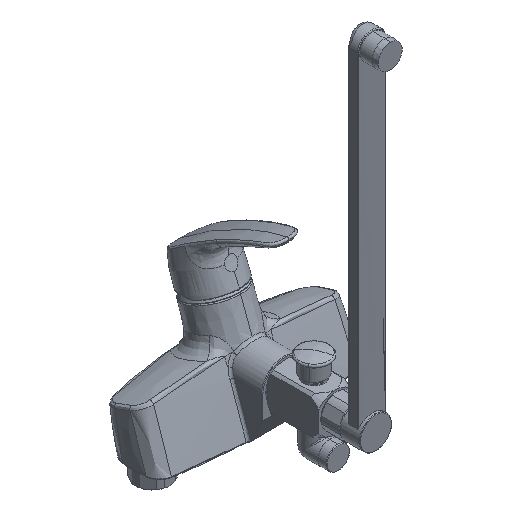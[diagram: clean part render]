
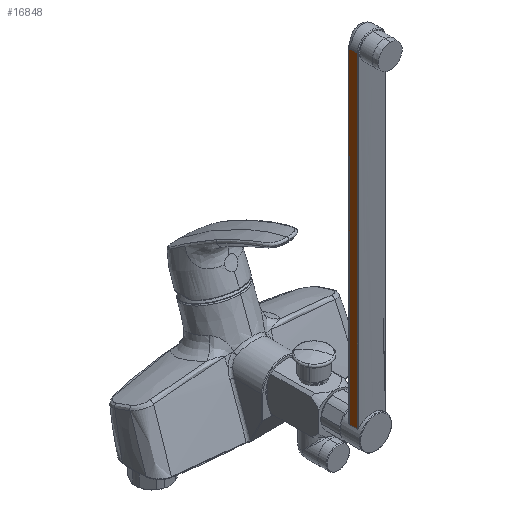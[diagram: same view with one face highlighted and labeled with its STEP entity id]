
A CAD part, isometric view. The second image highlights one B-rep face of the part: STEP entity #16848.
In plain terms, the highlighted planar face has unit normal (-1, 0, -0.001).
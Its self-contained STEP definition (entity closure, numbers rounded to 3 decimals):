
#888 = DIRECTION ( 'NONE',  ( 0.001, 0., -1. ) ) ;
#1114 = CARTESIAN_POINT ( 'NONE',  ( -12.799, -122.838, 67.031 ) ) ;
#1809 = VERTEX_POINT ( 'NONE', #1114 ) ;
#2680 = CARTESIAN_POINT ( 'NONE',  ( -13.043, -115.388, 373.444 ) ) ;
#3126 = ORIENTED_EDGE ( 'NONE', *, *, #22397, .F. ) ;
#3340 = CARTESIAN_POINT ( 'NONE',  ( -13.043, -114.969, 373.444 ) ) ;
#3611 = CARTESIAN_POINT ( 'NONE',  ( -12.799, -95.766, 67.031 ) ) ;
#5107 = DIRECTION ( 'NONE',  ( -1., 0., -0.001 ) ) ;
#5769 = LINE ( 'NONE', #17042, #10343 ) ;
#5962 = CARTESIAN_POINT ( 'NONE',  ( -13.033, -122.838, 360.794 ) ) ;
#6670 = FACE_OUTER_BOUND ( 'NONE', #17563, .T. ) ;
#7024 = VECTOR ( 'NONE', #13985, 1000. ) ;
#8817 = VERTEX_POINT ( 'NONE', #5962 ) ;
#9725 = EDGE_CURVE ( 'NONE', #1809, #13764, #12160, .T. ) ;
#10067 = AXIS2_PLACEMENT_3D ( 'NONE', #3340, #5107, #17192 ) ;
#10137 = DIRECTION ( 'NONE',  ( 0., -1., 0. ) ) ;
#10179 = LINE ( 'NONE', #2680, #18298 ) ;
#10343 = VECTOR ( 'NONE', #10137, 1000. ) ;
#10965 = ORIENTED_EDGE ( 'NONE', *, *, #15457, .T. ) ;
#11962 = DIRECTION ( 'NONE',  ( -0.001, 0., 1. ) ) ;
#12160 = LINE ( 'NONE', #3611, #7024 ) ;
#12544 = ORIENTED_EDGE ( 'NONE', *, *, #9725, .F. ) ;
#12658 = VERTEX_POINT ( 'NONE', #13117 ) ;
#13117 = CARTESIAN_POINT ( 'NONE',  ( -13.033, -115.388, 360.794 ) ) ;
#13727 = PLANE ( 'NONE',  #10067 ) ;
#13764 = VERTEX_POINT ( 'NONE', #18772 ) ;
#13985 = DIRECTION ( 'NONE',  ( 0., 1., 0. ) ) ;
#15457 = EDGE_CURVE ( 'NONE', #12658, #13764, #10179, .T. ) ;
#16340 = VECTOR ( 'NONE', #11962, 1000. ) ;
#16848 = ADVANCED_FACE ( 'NONE', ( #6670 ), #13727, .T. ) ;
#17042 = CARTESIAN_POINT ( 'NONE',  ( -13.033, 43.934, 360.794 ) ) ;
#17192 = DIRECTION ( 'NONE',  ( 0., 1., 0. ) ) ;
#17563 = EDGE_LOOP ( 'NONE', ( #12544, #18269, #3126, #10965 ) ) ;
#18269 = ORIENTED_EDGE ( 'NONE', *, *, #19771, .T. ) ;
#18298 = VECTOR ( 'NONE', #888, 1000. ) ;
#18772 = CARTESIAN_POINT ( 'NONE',  ( -12.799, -115.388, 67.031 ) ) ;
#18836 = CARTESIAN_POINT ( 'NONE',  ( -13.043, -122.838, 373.444 ) ) ;
#19771 = EDGE_CURVE ( 'NONE', #1809, #8817, #20927, .T. ) ;
#20927 = LINE ( 'NONE', #18836, #16340 ) ;
#22397 = EDGE_CURVE ( 'NONE', #12658, #8817, #5769, .T. ) ;
